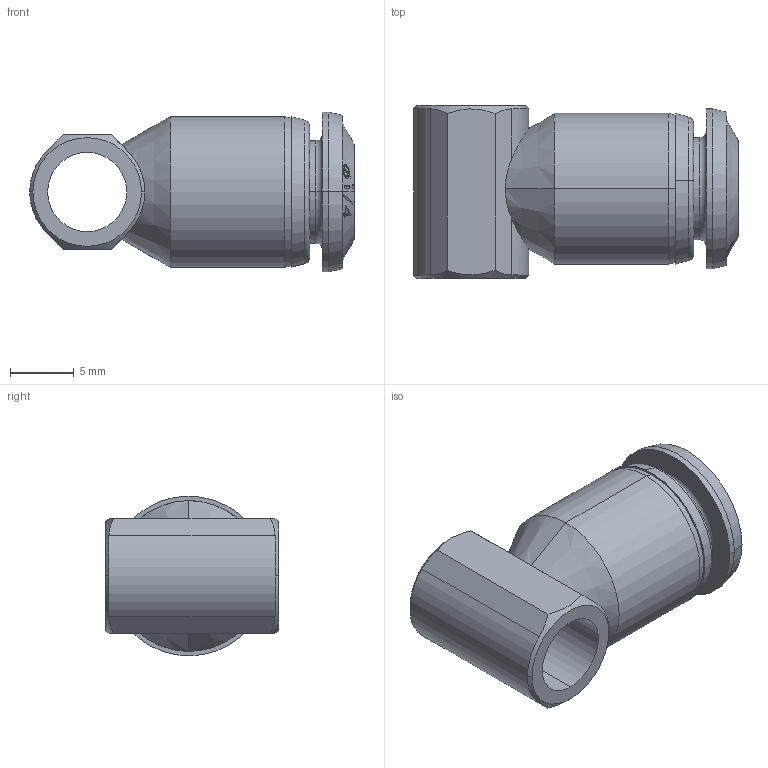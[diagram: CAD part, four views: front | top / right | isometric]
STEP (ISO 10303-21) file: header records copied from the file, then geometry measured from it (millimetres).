
FILE_DESCRIPTION (( 'STEP AP214' ), '1' );
FILE_NAME ('8550000010A.STEP', '2020-05-20T11:16:05', ( 'admin' ), ( '' ), 'SwSTEP 2.0', 'SolidWorks 2016', '' );
FILE_SCHEMA (( 'AUTOMOTIVE_DESIGN' ));
Length unit declared in the file: millimetre
Products named in the file (1): 8550000010A
Bounding box: 25.4 x 13.5 x 12.5 mm (x, y, z)
Volume: 1619.2 mm3; surface area: 1831.2 mm2
Topology: 1 solids, 1 shells, 96 faces, 235 edges, 152 vertices
Faces by surface type: bspline 43, cone 23, cylinder 13, plane 13, torus 4
Entity records: 4501 total; most frequent: CARTESIAN_POINT 2489, ORIENTED_EDGE 470, DIRECTION 291, EDGE_CURVE 235, VERTEX_POINT 152, EDGE_LOOP 109, AXIS2_PLACEMENT_3D 106, B_SPLINE_CURVE_WITH_KNOTS 100
